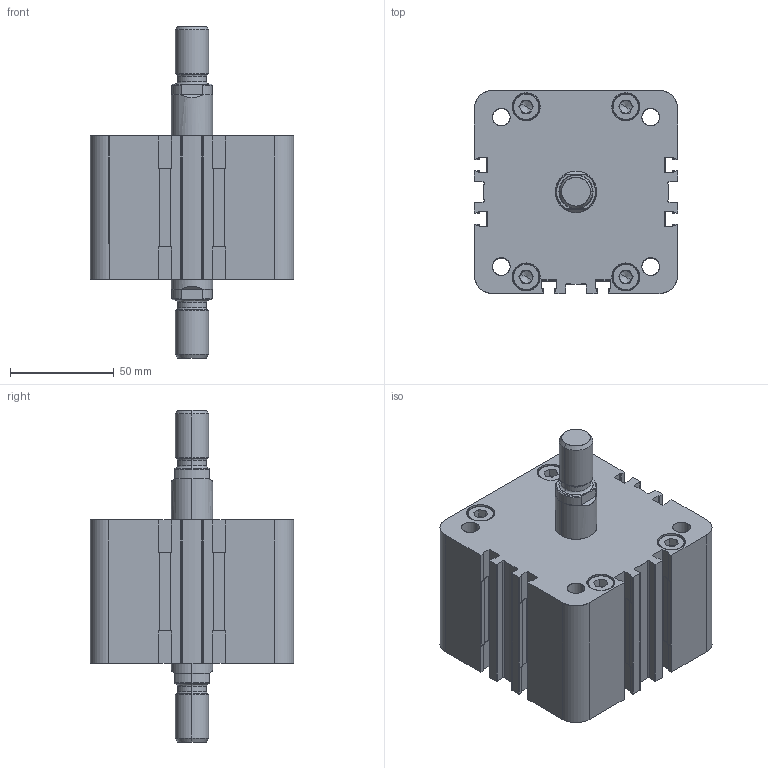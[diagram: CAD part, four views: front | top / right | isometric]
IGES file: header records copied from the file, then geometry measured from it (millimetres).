
Start section: SolidWorks IGES file using analytic representation for surfaces
Global section: file name: K:\Disegni Esecutivi\Cilindri\2_DISEGNI_cilindri_in_produzione\CILINDRO_ISO_21287\seconda versione cilindro 21287\2_CIL80\VERSIONE 80\COMPLESSIVI W80\W80_PIENI\WJM80\WJM0800015A.igs; native system: SolidWorks 2011; preprocessor: SolidWorks 2011; author: Cad01; date: 120803.172417; units: millimetre
Bounding box: 98 x 98 x 160 mm (x, y, z)
Surface area: 70982.2 mm2 (no closed solid volume)
Topology: 0 solids, 0 shells, 589 faces, 5912 edges, 5896 vertices
Faces by surface type: bspline 311, revolution 278
